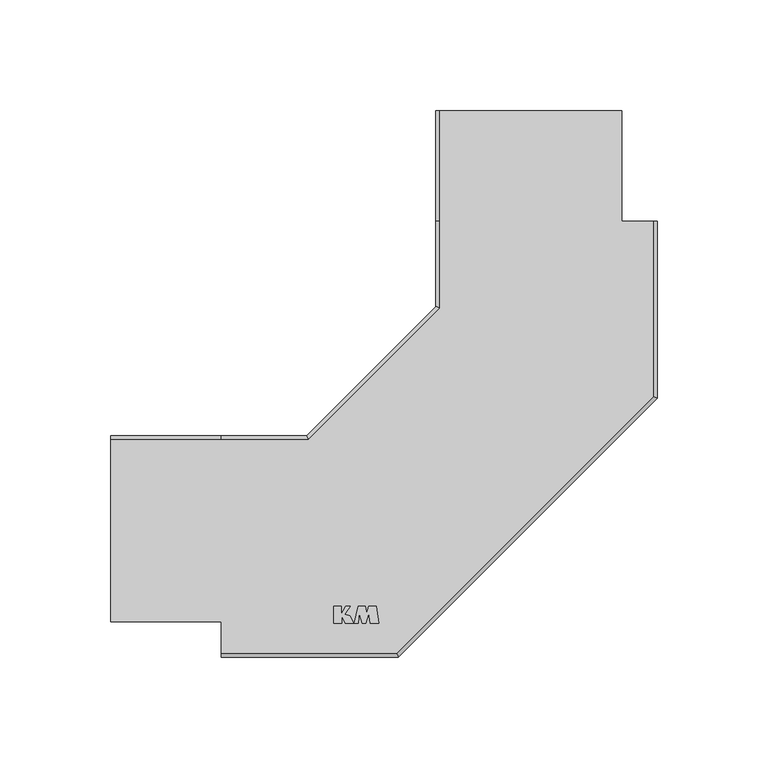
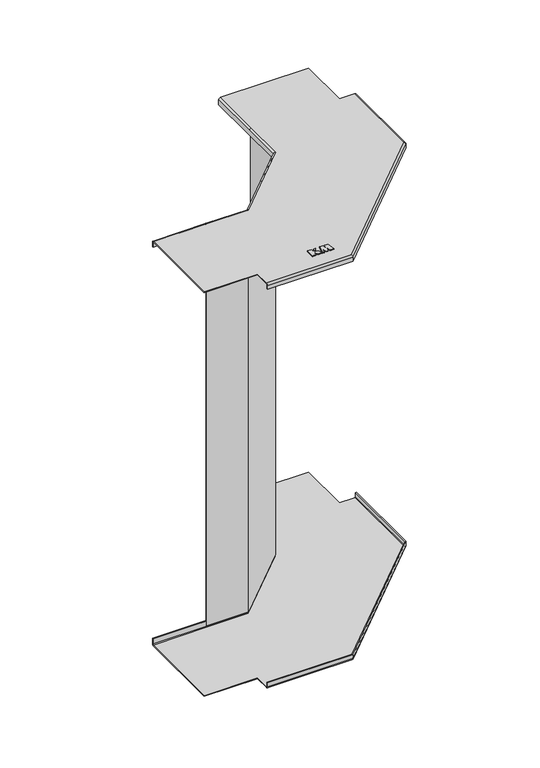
"""IFC4 building model written with IfcOpenShell, lengths in millimetres: cable carrier fitting geometry, КМ Профиль Угол вертикальный внешний VL90 : Угол вертикальный внешний NL90."""

from ifc_helpers import new_model, si_unit, frame, origin, place, context, project, spatial, polyline, circle_curve, ellipse_curve, outline, extrude, source, transform, mapped, element, save
from ifc_brep_helpers import plane_surface, cylinder_surface, revolved_surface, advanced_brep


def cable_carrier_fitting_4f7fa4ee(model_context):
    return source(origin(), model_context, "Body", "SolidModel", [
        extrude(outline(polyline([(-96.2388781, -26.986157), (-92.7316192, -26.986157), (-92.7316192, -30.564509), (-90.8289757, -26.986157), (-88.703011, -26.986157), (-91.1694955, -30.5086619), (-88.9277444, -31.194034), (-87.0604353, -34.737421), (-90.9588467, -34.737421), (-92.6630512, -31.5720802), (-92.6630512, -34.737421), (-96.2388781, -34.737421), (-96.2388781, -26.986157)])), frame((0.0, 0.0, 200.0), z_axis=(0.0, 0.0, 1.0), x_axis=(1.0, 0.0, 0.0)), (0.0, 0.0, 1.0), 0.8),
        extrude(outline(polyline([(-84.9962759, -34.737421), (-86.8943395, -34.737421), (-85.0740589, -26.9647569), (-82.0433304, -26.9647569), (-81.2768297, -30.0390232), (-80.2555223, -26.9623682), (-77.0615674, -26.9623682), (-75.8700699, -34.7429915), (-79.7725105, -34.7429915), (-80.2500032, -30.0541919), (-81.7300717, -34.7434681), (-83.2045824, -34.7434681), (-84.6126012, -30.0696135), (-84.9962759, -34.737421)])), frame((0.0, 0.0, 200.0), z_axis=(0.0, 0.0, 1.0), x_axis=(1.0, 0.0, 0.0)), (0.0, 0.0, 1.0), 0.8),
        advanced_brep(
        [(-197.0, 48.2, 200.0), (-197.0, 50.0, 198.2), (-197.0, 50.0, 193.5), (-197.0, 49.2, 193.5), (-197.0, 49.2, 198.4), (-197.0, 48.4, 199.2), (-197.0, -34.0, 199.2), (-197.0, -34.0, 200.0), (-147.0, -48.2, 200.0), (-67.7455844, -48.2, 200.0), (48.2, 67.7455844, 200.0), (48.2, 147.0, 200.0), (34.0, 147.0, 200.0), (34.0, 197.0, 200.0), (-48.2, 197.0, 200.0), (-48.2, 147.0, 200.0), (-48.2, 107.6757718, 200.0), (-107.6757718, 48.2, 200.0), (-147.0, 48.2, 200.0), (-147.0, -34.0, 200.0), (-147.0, 50.0, 198.2), (-108.4213562, 50.0, 198.2), (-108.4213562, 50.0, 193.5), (-67.3313708, -49.2, 194.5), (49.2, 67.3313708, 194.5), (49.2, 147.0, 194.5), (50.0, 147.0, 194.5), (50.0, 67.0, 194.5), (-67.0, -50.0, 194.5), (-147.0, -50.0, 194.5), (-147.0, -49.2, 194.5), (-67.0, -50.0, 198.2), (-147.0, -50.0, 198.2), (-50.0, 108.4213562, 198.2), (-50.0, 108.4213562, 193.5), (50.0, 67.0, 198.2), (-50.0, 147.0, 198.2), (-50.0, 197.0, 198.2), (-50.0, 197.0, 193.5), (50.0, 147.0, 198.2), (34.0, 197.0, 199.2), (-48.4, 197.0, 199.2), (-49.2, 197.0, 198.4), (-49.2, 197.0, 193.5), (-49.2, 108.0899854, 193.5), (-108.0899854, 49.2, 193.5), (-108.0899854, 49.2, 198.4), (-147.0, 49.2, 198.4), (-147.0, 48.4, 199.2), (-107.7586145, 48.4, 199.2), (-48.4, 107.7586145, 199.2), (-48.4, 147.0, 199.2), (34.0, 147.0, 199.2), (48.4, 147.0, 199.2), (48.4, 67.6627417, 199.2), (-67.6627417, -48.4, 199.2), (-147.0, -48.4, 199.2), (-147.0, -34.0, 199.2), (-147.0, -49.2, 198.4), (-67.3313708, -49.2, 198.4), (-49.2, 108.0899854, 198.4), (49.2, 67.3313708, 198.4), (-49.2, 147.0, 198.4), (49.2, 147.0, 198.4)],
        [
            (0, 1, circle_curve(frame((-197.0, 48.2, 198.2), z_axis=(-1.0, 0.0, 0.0), x_axis=(0.0, 1.0, 0.0)), 1.8)),
            (1, 2),
            (2, 3),
            (3, 4),
            (4, 5, circle_curve(frame((-197.0, 48.4, 198.4), z_axis=(1.0, 0.0, 0.0), x_axis=(0.0, 1.0, 0.0)), 0.8)),
            (5, 6),
            (6, 7),
            (7, 0),
            (8, 9),
            (9, 10),
            (10, 11),
            (11, 12),
            (12, 13),
            (13, 14),
            (14, 15),
            (15, 16),
            (16, 17),
            (17, 18),
            (18, 0),
            (7, 19),
            (19, 8),
            (1, 20),
            (20, 21),
            (21, 22),
            (22, 2),
            (23, 24),
            (24, 25),
            (25, 26),
            (26, 27),
            (27, 28),
            (28, 29),
            (29, 30),
            (30, 23),
            (28, 31),
            (31, 32),
            (32, 29),
            (21, 33),
            (33, 34),
            (34, 22),
            (27, 35),
            (35, 31),
            (33, 36),
            (36, 37),
            (37, 38),
            (38, 34),
            (26, 39),
            (39, 35),
            (37, 14, circle_curve(frame((-48.2, 197.0, 198.2), z_axis=(0.0, 1.0, 0.0), x_axis=(-1.0, 0.0, 0.0)), 1.8)),
            (13, 40),
            (40, 41),
            (41, 42, circle_curve(frame((-48.4, 197.0, 198.4), z_axis=(0.0, -1.0, 0.0), x_axis=(-1.0, 0.0, 0.0)), 0.8)),
            (42, 43),
            (43, 38),
            (43, 44),
            (44, 45),
            (45, 3),
            (45, 46),
            (46, 47),
            (47, 4),
            (5, 48),
            (48, 49),
            (49, 50),
            (50, 51),
            (51, 41),
            (40, 52),
            (52, 53),
            (53, 54),
            (54, 55),
            (55, 56),
            (56, 57),
            (57, 6),
            (58, 59),
            (59, 23),
            (30, 58),
            (44, 60),
            (60, 46),
            (59, 61),
            (61, 24),
            (42, 62),
            (62, 60),
            (61, 63),
            (63, 25),
            (17, 21, ellipse_curve(frame((-107.6757718, 48.2, 198.2), z_axis=(-0.9238795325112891, -0.3826834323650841, 0.0), x_axis=(-0.3826834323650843, 0.9238795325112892, 0.0)), 1.948306, 1.8)),
            (20, 18, circle_curve(frame((-147.0, 48.2, 198.2), z_axis=(1.0, 0.0, 0.0), x_axis=(0.0, 1.0, 0.0)), 1.8)),
            (46, 49, ellipse_curve(frame((-107.7586145, 48.4, 198.4), z_axis=(0.9238795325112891, 0.3826834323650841, 0.0), x_axis=(0.3826834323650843, -0.9238795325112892, 0.0)), 0.8659138, 0.8)),
            (48, 47, circle_curve(frame((-147.0, 48.4, 198.4), z_axis=(-1.0, 0.0, 0.0), x_axis=(0.0, 1.0, 0.0)), 0.8)),
            (55, 59, ellipse_curve(frame((-67.6627417, -48.4, 198.4), z_axis=(0.9238795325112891, 0.3826834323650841, 0.0), x_axis=(0.3826834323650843, -0.9238795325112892, 0.0)), 0.8659138, 0.8)),
            (58, 56, circle_curve(frame((-147.0, -48.4, 198.4), z_axis=(-1.0, 0.0, 0.0), x_axis=(0.0, 1.0, 0.0)), 0.8)),
            (8, 32, circle_curve(frame((-147.0, -48.2, 198.2), z_axis=(1.0, 0.0, 0.0), x_axis=(0.0, 1.0, 0.0)), 1.8)),
            (31, 9, ellipse_curve(frame((-67.7455844, -48.2, 198.2), z_axis=(-0.9238795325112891, -0.3826834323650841, 0.0), x_axis=(-0.3826834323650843, 0.9238795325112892, 0.0)), 1.948306, 1.8)),
            (16, 33, ellipse_curve(frame((-48.2, 107.6757718, 198.2), z_axis=(-0.38268343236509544, -0.9238795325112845, 0.0), x_axis=(-0.9238795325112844, 0.38268343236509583, 0.0)), 1.948306, 1.8)),
            (60, 50, ellipse_curve(frame((-48.4, 107.7586145, 198.4), z_axis=(0.38268343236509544, 0.9238795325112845, 0.0), x_axis=(0.9238795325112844, -0.38268343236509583, 0.0)), 0.8659138, 0.8)),
            (54, 61, ellipse_curve(frame((48.4, 67.6627417, 198.4), z_axis=(0.38268343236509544, 0.9238795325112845, 0.0), x_axis=(0.9238795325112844, -0.38268343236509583, 0.0)), 0.8659138, 0.8)),
            (35, 10, ellipse_curve(frame((48.2, 67.7455844, 198.2), z_axis=(-0.38268343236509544, -0.9238795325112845, 0.0), x_axis=(-0.9238795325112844, 0.38268343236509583, 0.0)), 1.948306, 1.8)),
            (15, 36, circle_curve(frame((-48.2, 147.0, 198.2), z_axis=(0.0, -1.0, 0.0), x_axis=(-1.0, 0.0, 0.0)), 1.8)),
            (62, 51, circle_curve(frame((-48.4, 147.0, 198.4), z_axis=(0.0, 1.0, 0.0), x_axis=(-1.0, 0.0, 0.0)), 0.8)),
            (53, 63, circle_curve(frame((48.4, 147.0, 198.4), z_axis=(0.0, 1.0, 0.0), x_axis=(-1.0, 0.0, 0.0)), 0.8)),
            (39, 11, circle_curve(frame((48.2, 147.0, 198.2), z_axis=(0.0, -1.0, 0.0), x_axis=(-1.0, 0.0, 0.0)), 1.8)),
            (19, 57),
            (52, 12),
        ],
        [
            plane_surface(frame((-197.0, 0.0, 0.0), z_axis=(-1.0, 0.0, 0.0), x_axis=(0.0, 0.0, 1.0))),
            plane_surface(frame((-197.0, -48.2, 200.0), z_axis=(0.0, 0.0, 1.0), x_axis=(1.0, 0.0, 0.0))),
            plane_surface(frame((-197.0, 50.0, 198.2), z_axis=(0.0, 1.0, 0.0), x_axis=(1.0, 0.0, 0.0))),
            plane_surface(frame((-197.0, -49.2, 194.5), z_axis=(0.0, 0.0, -1.0), x_axis=(1.0, 0.0, 0.0))),
            plane_surface(frame((-197.0, -50.0, 194.5), z_axis=(0.0, -1.0, 0.0), x_axis=(1.0, 0.0, 0.0))),
            plane_surface(frame((-108.4213562, 50.0, 198.2), z_axis=(-0.7071067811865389, 0.7071067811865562, 0.0), x_axis=(0.7071067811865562, 0.7071067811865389, 0.0))),
            plane_surface(frame((-67.0, -50.0, 194.5), z_axis=(0.7071067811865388, -0.7071067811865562, 0.0), x_axis=(0.7071067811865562, 0.7071067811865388, 0.0))),
            plane_surface(frame((-50.0, 108.4213562, 198.2), z_axis=(-1.0, 0.0, 0.0), x_axis=(0.0, 1.0, 0.0))),
            plane_surface(frame((50.0, 67.0, 194.5), z_axis=(1.0, 0.0, 0.0), x_axis=(0.0, 1.0, 0.0))),
            plane_surface(frame((0.0, 197.0, 0.0), z_axis=(0.0, 1.0, 0.0), x_axis=(0.0, 0.0, 1.0))),
            plane_surface(frame((-197.0, 50.0, 193.5), z_axis=(0.0, 0.0, -1.0), x_axis=(1.0, 0.0, 0.0))),
            plane_surface(frame((-197.0, 49.2, 193.5), z_axis=(0.0, -1.0, 0.0), x_axis=(1.0, 0.0, 0.0))),
            plane_surface(frame((-197.0, 48.4, 199.2), z_axis=(0.0, 0.0, -1.0), x_axis=(1.0, 0.0, 0.0))),
            plane_surface(frame((-197.0, -49.2, 198.4), z_axis=(0.0, 1.0, 0.0), x_axis=(1.0, 0.0, 0.0))),
            plane_surface(frame((-108.0899854, 49.2, 193.5), z_axis=(0.707106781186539, -0.707106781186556, 0.0), x_axis=(0.707106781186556, 0.707106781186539, 0.0))),
            plane_surface(frame((-67.3313708, -49.2, 198.4), z_axis=(-0.7071067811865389, 0.7071067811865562, 0.0), x_axis=(0.7071067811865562, 0.7071067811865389, 0.0))),
            plane_surface(frame((-49.2, 108.0899854, 193.5), z_axis=(1.0, 0.0, 0.0), x_axis=(0.0, 1.0, 0.0))),
            plane_surface(frame((49.2, 67.3313708, 198.4), z_axis=(-1.0, 0.0, 0.0), x_axis=(0.0, 1.0, 0.0))),
            cylinder_surface(frame((-147.0, 48.2, 198.2), z_axis=(-1.0, 0.0, 0.0), x_axis=(0.0, 1.0, 0.0)), 1.8),
            revolved_surface(polyline([(-107.4272436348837, 49.199999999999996, 198.4), (-147.0, 49.199999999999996, 198.4)]), (-147.0, 48.4, 198.4), (1.0, 0.0, 0.0)),
            revolved_surface(polyline([(-67.3313708, -47.6, 198.4), (-147.0, -47.6, 198.4)]), (-147.0, -48.4, 198.4), (1.0, 0.0, 0.0)),
            cylinder_surface(frame((-147.0, -48.2, 198.2), z_axis=(-1.0, 0.0, 0.0), x_axis=(0.0, 1.0, 0.0)), 1.8),
            cylinder_surface(frame((-121.793225, 34.0825469, 198.2), z_axis=(-0.7071067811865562, -0.7071067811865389, 0.0), x_axis=(-0.7071067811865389, 0.7071067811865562, 0.0)), 1.8),
            revolved_surface(polyline([(-48.73137083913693, 108.55861451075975, 198.4), (-108.55861451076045, 48.731370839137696, 198.4)]), (-121.9346463, 34.2239682, 198.4), (0.7071067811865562, 0.7071067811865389, 0.0)),
            revolved_surface(polyline([(48.06862916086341, 68.46274171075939, 198.4), (-68.46274171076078, -48.06862916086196, 198.4)]), (-53.4867099, -34.2239682, 198.4), (0.7071067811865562, 0.7071067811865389, 0.0)),
            cylinder_surface(frame((-53.6281313, -34.0825469, 198.2), z_axis=(-0.7071067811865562, -0.7071067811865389, 0.0), x_axis=(-0.7071067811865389, 0.7071067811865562, 0.0)), 1.8),
            cylinder_surface(frame((-48.2, 87.7106781, 198.2), z_axis=(0.0, -1.0, 0.0), x_axis=(-1.0, 0.0, 0.0)), 1.8),
            revolved_surface(polyline([(-49.199999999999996, 147.0, 198.4), (-49.199999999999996, 107.4272436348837, 198.4)]), (-48.4, 87.7106781, 198.4), (0.0, 1.0, 0.0)),
            revolved_surface(polyline([(47.6, 147.0, 198.4), (47.6, 67.3313708, 198.4)]), (48.4, 87.7106781, 198.4), (0.0, 1.0, 0.0)),
            cylinder_surface(frame((48.2, 87.7106781, 198.2), z_axis=(0.0, -1.0, 0.0), x_axis=(-1.0, 0.0, 0.0)), 1.8),
            plane_surface(frame((-147.0, -50.0, 200.0), z_axis=(-1.0, 0.0, 0.0), x_axis=(0.0, 0.0, -1.0))),
            plane_surface(frame((34.0, 147.0, 200.0), z_axis=(0.0, 1.0, 0.0), x_axis=(0.0, 0.0, -1.0))),
            cylinder_surface(frame((-197.0, 48.2, 198.2), z_axis=(-1.0, 0.0, 0.0), x_axis=(0.0, 1.0, 0.0)), 1.8),
            revolved_surface(polyline([(-147.0, 49.199999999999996, 198.4), (-197.0, 49.199999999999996, 198.4)]), (-197.0, 48.4, 198.4), (1.0, 0.0, 0.0)),
            cylinder_surface(frame((-48.2, 147.0, 198.2), z_axis=(0.0, -1.0, 0.0), x_axis=(-1.0, 0.0, 0.0)), 1.8),
            revolved_surface(polyline([(-49.199999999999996, 197.0, 198.4), (-49.199999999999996, 147.0, 198.4)]), (-48.4, 147.0, 198.4), (0.0, 1.0, 0.0)),
            plane_surface(frame((-147.0, -34.0, 200.0), z_axis=(0.0, -1.0, 0.0), x_axis=(0.0, 0.0, -1.0))),
            plane_surface(frame((34.0, 197.0, 200.0), z_axis=(1.0, 0.0, 0.0), x_axis=(0.0, 0.0, -1.0))),
        ],
        [
            (0, [[1, 2, 3, 4, 5, 6, 7, 8]]),
            (1, [[9, 10, 11, 12, 13, 14, 15, 16, 17, 18, 19, -8, 20, 21]]),
            (2, [[-2, 22, 23, 24, 25]]),
            (3, [[26, 27, 28, 29, 30, 31, 32, 33]]),
            (4, [[34, 35, 36, -31]]),
            (5, [[-24, 37, 38, 39]]),
            (6, [[-30, 40, 41, -34]]),
            (7, [[-38, 42, 43, 44, 45]]),
            (8, [[-40, -29, 46, 47]]),
            (9, [[-44, 48, -14, 49, 50, 51, 52, 53]]),
            (10, [[-3, -25, -39, -45, -53, 54, 55, 56]]),
            (11, [[-4, -56, 57, 58, 59]]),
            (12, [[60, 61, 62, 63, 64, -50, 65, 66, 67, 68, 69, 70, 71, -6]]),
            (13, [[72, 73, -33, 74]]),
            (14, [[-55, 75, 76, -57]]),
            (15, [[-26, -73, 77, 78]]),
            (16, [[-52, 79, 80, -75, -54]]),
            (17, [[-78, 81, 82, -27]]),
            (18, [[-18, 83, -23, 84]]),
            (19, [[-58, 85, -61, 86]]),
            (20, [[-69, 87, -72, 88]]),
            (21, [[-9, 89, -35, 90]]),
            (22, [[-17, 91, -37, -83]]),
            (23, [[-62, -85, -76, 92]]),
            (24, [[-68, 93, -77, -87]]),
            (25, [[-10, -90, -41, 94]]),
            (26, [[-16, 95, -42, -91]]),
            (27, [[-63, -92, -80, 96]]),
            (28, [[-67, 97, -81, -93]]),
            (29, [[-11, -94, -47, 98]]),
            (30, [[99, -70, -88, -74, -32, -36, -89, -21]]),
            (31, [[100, -12, -98, -46, -28, -82, -97, -66]]),
            (32, [[-1, -19, -84, -22]]),
            (33, [[-5, -59, -86, -60]]),
            (34, [[-15, -48, -43, -95]]),
            (35, [[-51, -64, -96, -79]]),
            (36, [[-99, -20, -7, -71]]),
            (37, [[-100, -65, -49, -13]]),
        ],
    ),
        advanced_brep(
        [(-197.0, 49.2, -193.5), (-197.0, 50.0, -193.5), (-197.0, 50.0, -198.2), (-197.0, 48.2, -200.0), (-197.0, -34.0, -200.0), (-197.0, -34.0, -199.2), (-197.0, 48.4, -199.2), (-197.0, 49.2, -198.4), (-108.0899854, 49.2, -193.5), (-49.2, 108.0899854, -193.5), (-49.2, 197.0, -193.5), (-50.0, 197.0, -193.5), (-50.0, 108.4213562, -193.5), (-108.4213562, 50.0, -193.5), (-108.4213562, 50.0, -198.2), (-147.0, 50.0, -198.2), (-147.0, 48.2, -200.0), (-107.6757718, 48.2, -200.0), (-48.2, 107.6757718, -200.0), (-48.2, 147.0, -200.0), (-48.2, 197.0, -200.0), (34.0, 197.0, -200.0), (34.0, 147.0, -200.0), (48.2, 147.0, -200.0), (48.2, 67.7455844, -200.0), (-67.7455844, -48.2, -200.0), (-147.0, -48.2, -200.0), (-147.0, -34.0, -200.0), (-147.0, -50.0, -198.2), (-67.0, -50.0, -198.2), (-67.0, -50.0, -194.5), (-147.0, -50.0, -194.5), (-50.0, 108.4213562, -198.2), (50.0, 67.0, -198.2), (50.0, 67.0, -194.5), (-50.0, 197.0, -198.2), (-50.0, 147.0, -198.2), (50.0, 147.0, -198.2), (50.0, 147.0, -194.5), (-49.2, 197.0, -198.4), (-48.4, 197.0, -199.2), (34.0, 197.0, -199.2), (49.2, 147.0, -194.5), (49.2, 67.3313708, -194.5), (-67.3313708, -49.2, -194.5), (-147.0, -49.2, -194.5), (-67.3313708, -49.2, -198.4), (-147.0, -49.2, -198.4), (-147.0, -48.4, -199.2), (-67.6627417, -48.4, -199.2), (48.4, 67.6627417, -199.2), (48.4, 147.0, -199.2), (34.0, 147.0, -199.2), (-48.4, 147.0, -199.2), (-48.4, 107.7586145, -199.2), (-107.7586145, 48.4, -199.2), (-147.0, 48.4, -199.2), (-147.0, -34.0, -199.2), (-147.0, 49.2, -198.4), (-108.0899854, 49.2, -198.4), (49.2, 67.3313708, -198.4), (-49.2, 108.0899854, -198.4), (49.2, 147.0, -198.4), (-49.2, 147.0, -198.4)],
        [
            (0, 1),
            (1, 2),
            (2, 3, circle_curve(frame((-197.0, 48.2, -198.2), z_axis=(-1.0, 0.0, 0.0), x_axis=(0.0, 1.0, 0.0)), 1.8)),
            (3, 4),
            (4, 5),
            (5, 6),
            (6, 7, circle_curve(frame((-197.0, 48.4, -198.4), z_axis=(1.0, 0.0, 0.0), x_axis=(0.0, 1.0, 0.0)), 0.8)),
            (7, 0),
            (0, 8),
            (8, 9),
            (9, 10),
            (10, 11),
            (11, 12),
            (12, 13),
            (13, 1),
            (13, 14),
            (14, 15),
            (15, 2),
            (3, 16),
            (16, 17),
            (17, 18),
            (18, 19),
            (19, 20),
            (20, 21),
            (21, 22),
            (22, 23),
            (23, 24),
            (24, 25),
            (25, 26),
            (26, 27),
            (27, 4),
            (28, 29),
            (29, 30),
            (30, 31),
            (31, 28),
            (12, 32),
            (32, 14),
            (29, 33),
            (33, 34),
            (34, 30),
            (11, 35),
            (35, 36),
            (36, 32),
            (33, 37),
            (37, 38),
            (38, 34),
            (10, 39),
            (39, 40, circle_curve(frame((-48.4, 197.0, -198.4), z_axis=(0.0, -1.0, 0.0), x_axis=(-1.0, 0.0, 0.0)), 0.8)),
            (40, 41),
            (41, 21),
            (20, 35, circle_curve(frame((-48.2, 197.0, -198.2), z_axis=(0.0, 1.0, 0.0), x_axis=(-1.0, 0.0, 0.0)), 1.8)),
            (38, 42),
            (42, 43),
            (43, 44),
            (44, 45),
            (45, 31),
            (44, 46),
            (46, 47),
            (47, 45),
            (48, 49),
            (49, 50),
            (50, 51),
            (51, 52),
            (52, 41),
            (40, 53),
            (53, 54),
            (54, 55),
            (55, 56),
            (56, 6),
            (5, 57),
            (57, 48),
            (7, 58),
            (58, 59),
            (59, 8),
            (43, 60),
            (60, 46),
            (59, 61),
            (61, 9),
            (42, 62),
            (62, 60),
            (61, 63),
            (63, 39),
            (14, 17, ellipse_curve(frame((-107.6757718, 48.2, -198.2), z_axis=(-0.9238795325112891, -0.3826834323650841, 0.0), x_axis=(-0.3826834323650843, 0.9238795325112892, 0.0)), 1.948306, 1.8)),
            (16, 15, circle_curve(frame((-147.0, 48.2, -198.2), z_axis=(1.0, 0.0, 0.0), x_axis=(0.0, 1.0, 0.0)), 1.8)),
            (25, 29, ellipse_curve(frame((-67.7455844, -48.2, -198.2), z_axis=(-0.9238795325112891, -0.3826834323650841, 0.0), x_axis=(-0.3826834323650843, 0.9238795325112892, 0.0)), 1.948306, 1.8)),
            (28, 26, circle_curve(frame((-147.0, -48.2, -198.2), z_axis=(1.0, 0.0, 0.0), x_axis=(0.0, 1.0, 0.0)), 1.8)),
            (46, 49, ellipse_curve(frame((-67.6627417, -48.4, -198.4), z_axis=(0.9238795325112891, 0.3826834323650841, 0.0), x_axis=(0.3826834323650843, -0.9238795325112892, 0.0)), 0.8659138, 0.8)),
            (48, 47, circle_curve(frame((-147.0, -48.4, -198.4), z_axis=(-1.0, 0.0, 0.0), x_axis=(0.0, 1.0, 0.0)), 0.8)),
            (55, 59, ellipse_curve(frame((-107.7586145, 48.4, -198.4), z_axis=(0.9238795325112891, 0.3826834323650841, 0.0), x_axis=(0.3826834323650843, -0.9238795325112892, 0.0)), 0.8659138, 0.8)),
            (58, 56, circle_curve(frame((-147.0, 48.4, -198.4), z_axis=(-1.0, 0.0, 0.0), x_axis=(0.0, 1.0, 0.0)), 0.8)),
            (32, 18, ellipse_curve(frame((-48.2, 107.6757718, -198.2), z_axis=(-0.38268343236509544, -0.9238795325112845, 0.0), x_axis=(-0.9238795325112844, 0.38268343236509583, 0.0)), 1.948306, 1.8)),
            (24, 33, ellipse_curve(frame((48.2, 67.7455844, -198.2), z_axis=(-0.38268343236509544, -0.9238795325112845, 0.0), x_axis=(-0.9238795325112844, 0.38268343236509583, 0.0)), 1.948306, 1.8)),
            (60, 50, ellipse_curve(frame((48.4, 67.6627417, -198.4), z_axis=(0.38268343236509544, 0.9238795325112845, 0.0), x_axis=(0.9238795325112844, -0.38268343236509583, 0.0)), 0.8659138, 0.8)),
            (54, 61, ellipse_curve(frame((-48.4, 107.7586145, -198.4), z_axis=(0.38268343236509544, 0.9238795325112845, 0.0), x_axis=(0.9238795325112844, -0.38268343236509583, 0.0)), 0.8659138, 0.8)),
            (36, 19, circle_curve(frame((-48.2, 147.0, -198.2), z_axis=(0.0, -1.0, 0.0), x_axis=(-1.0, 0.0, 0.0)), 1.8)),
            (23, 37, circle_curve(frame((48.2, 147.0, -198.2), z_axis=(0.0, -1.0, 0.0), x_axis=(-1.0, 0.0, 0.0)), 1.8)),
            (62, 51, circle_curve(frame((48.4, 147.0, -198.4), z_axis=(0.0, 1.0, 0.0), x_axis=(-1.0, 0.0, 0.0)), 0.8)),
            (53, 63, circle_curve(frame((-48.4, 147.0, -198.4), z_axis=(0.0, 1.0, 0.0), x_axis=(-1.0, 0.0, 0.0)), 0.8)),
            (57, 27),
            (22, 52),
        ],
        [
            plane_surface(frame((-197.0, 0.0, 0.0), z_axis=(-1.0, 0.0, 0.0), x_axis=(0.0, 0.0, 1.0))),
            plane_surface(frame((-197.0, 49.2, -193.5), z_axis=(0.0, 0.0, 1.0), x_axis=(1.0, 0.0, 0.0))),
            plane_surface(frame((-197.0, 50.0, -193.5), z_axis=(0.0, 1.0, 0.0), x_axis=(1.0, 0.0, 0.0))),
            plane_surface(frame((-197.0, 48.2, -200.0), z_axis=(0.0, 0.0, -1.0), x_axis=(1.0, 0.0, 0.0))),
            plane_surface(frame((-197.0, -50.0, -198.2), z_axis=(0.0, -1.0, 0.0), x_axis=(1.0, 0.0, 0.0))),
            plane_surface(frame((-108.4213562, 50.0, -193.5), z_axis=(-0.7071067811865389, 0.7071067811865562, 0.0), x_axis=(0.7071067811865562, 0.7071067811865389, 0.0))),
            plane_surface(frame((-67.0, -50.0, -198.2), z_axis=(0.7071067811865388, -0.7071067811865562, 0.0), x_axis=(0.7071067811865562, 0.7071067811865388, 0.0))),
            plane_surface(frame((-50.0, 108.4213562, -193.5), z_axis=(-1.0, 0.0, 0.0), x_axis=(0.0, 1.0, 0.0))),
            plane_surface(frame((50.0, 67.0, -198.2), z_axis=(1.0, 0.0, 0.0), x_axis=(0.0, 1.0, 0.0))),
            plane_surface(frame((0.0, 197.0, 0.0), z_axis=(0.0, 1.0, 0.0), x_axis=(0.0, 0.0, 1.0))),
            plane_surface(frame((-197.0, -50.0, -194.5), z_axis=(0.0, 0.0, 1.0), x_axis=(1.0, 0.0, 0.0))),
            plane_surface(frame((-197.0, -49.2, -194.5), z_axis=(0.0, 1.0, 0.0), x_axis=(1.0, 0.0, 0.0))),
            plane_surface(frame((-197.0, -48.4, -199.2), z_axis=(0.0, 0.0, 1.0), x_axis=(1.0, 0.0, 0.0))),
            plane_surface(frame((-197.0, 49.2, -198.4), z_axis=(0.0, -1.0, 0.0), x_axis=(1.0, 0.0, 0.0))),
            plane_surface(frame((-67.3313708, -49.2, -194.5), z_axis=(-0.7071067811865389, 0.7071067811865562, 0.0), x_axis=(0.7071067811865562, 0.7071067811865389, 0.0))),
            plane_surface(frame((-108.0899854, 49.2, -198.4), z_axis=(0.707106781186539, -0.707106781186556, 0.0), x_axis=(0.707106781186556, 0.707106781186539, 0.0))),
            plane_surface(frame((49.2, 67.3313708, -194.5), z_axis=(-1.0, 0.0, 0.0), x_axis=(0.0, 1.0, 0.0))),
            plane_surface(frame((-49.2, 108.0899854, -198.4), z_axis=(1.0, 0.0, 0.0), x_axis=(0.0, 1.0, 0.0))),
            cylinder_surface(frame((-147.0, 48.2, -198.2), z_axis=(-1.0, 0.0, 0.0), x_axis=(0.0, 1.0, 0.0)), 1.8),
            cylinder_surface(frame((-147.0, -48.2, -198.2), z_axis=(-1.0, 0.0, 0.0), x_axis=(0.0, 1.0, 0.0)), 1.8),
            revolved_surface(polyline([(-67.3313708, -47.6, -198.4), (-147.0, -47.6, -198.4)]), (-147.0, -48.4, -198.4), (1.0, 0.0, 0.0)),
            revolved_surface(polyline([(-107.4272436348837, 49.199999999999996, -198.4), (-147.0, 49.199999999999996, -198.4)]), (-147.0, 48.4, -198.4), (1.0, 0.0, 0.0)),
            cylinder_surface(frame((-121.793225, 34.0825469, -198.2), z_axis=(-0.7071067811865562, -0.7071067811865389, 0.0), x_axis=(-0.7071067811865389, 0.7071067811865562, 0.0)), 1.8),
            cylinder_surface(frame((-53.6281313, -34.0825469, -198.2), z_axis=(-0.7071067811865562, -0.7071067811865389, 0.0), x_axis=(-0.7071067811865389, 0.7071067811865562, 0.0)), 1.8),
            revolved_surface(polyline([(48.06862916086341, 68.46274171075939, -198.4), (-68.46274171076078, -48.06862916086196, -198.4)]), (-53.4867099, -34.2239682, -198.4), (0.7071067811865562, 0.7071067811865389, 0.0)),
            revolved_surface(polyline([(-48.73137083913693, 108.55861451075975, -198.4), (-108.55861451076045, 48.731370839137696, -198.4)]), (-121.9346463, 34.2239682, -198.4), (0.7071067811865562, 0.7071067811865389, 0.0)),
            cylinder_surface(frame((-48.2, 87.7106781, -198.2), z_axis=(0.0, -1.0, 0.0), x_axis=(-1.0, 0.0, 0.0)), 1.8),
            cylinder_surface(frame((48.2, 87.7106781, -198.2), z_axis=(0.0, -1.0, 0.0), x_axis=(-1.0, 0.0, 0.0)), 1.8),
            revolved_surface(polyline([(47.6, 147.0, -198.4), (47.6, 67.3313708, -198.4)]), (48.4, 87.7106781, -198.4), (0.0, 1.0, 0.0)),
            revolved_surface(polyline([(-49.199999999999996, 147.0, -198.4), (-49.199999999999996, 107.4272436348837, -198.4)]), (-48.4, 87.7106781, -198.4), (0.0, 1.0, 0.0)),
            plane_surface(frame((-147.0, -50.0, 200.0), z_axis=(-1.0, 0.0, 0.0), x_axis=(0.0, 0.0, -1.0))),
            plane_surface(frame((34.0, 147.0, 200.0), z_axis=(0.0, 1.0, 0.0), x_axis=(0.0, 0.0, -1.0))),
            cylinder_surface(frame((-197.0, 48.2, -198.2), z_axis=(-1.0, 0.0, 0.0), x_axis=(0.0, 1.0, 0.0)), 1.8),
            revolved_surface(polyline([(-147.0, 49.199999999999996, -198.4), (-197.0, 49.199999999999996, -198.4)]), (-197.0, 48.4, -198.4), (1.0, 0.0, 0.0)),
            cylinder_surface(frame((-48.2, 147.0, -198.2), z_axis=(0.0, -1.0, 0.0), x_axis=(-1.0, 0.0, 0.0)), 1.8),
            revolved_surface(polyline([(-49.199999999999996, 197.0, -198.4), (-49.199999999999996, 147.0, -198.4)]), (-48.4, 147.0, -198.4), (0.0, 1.0, 0.0)),
            plane_surface(frame((-147.0, -34.0, 200.0), z_axis=(0.0, -1.0, 0.0), x_axis=(0.0, 0.0, -1.0))),
            plane_surface(frame((34.0, 197.0, 200.0), z_axis=(1.0, 0.0, 0.0), x_axis=(0.0, 0.0, -1.0))),
        ],
        [
            (0, [[1, 2, 3, 4, 5, 6, 7, 8]]),
            (1, [[-1, 9, 10, 11, 12, 13, 14, 15]]),
            (2, [[-2, -15, 16, 17, 18]]),
            (3, [[19, 20, 21, 22, 23, 24, 25, 26, 27, 28, 29, 30, 31, -4]]),
            (4, [[32, 33, 34, 35]]),
            (5, [[-14, 36, 37, -16]]),
            (6, [[-33, 38, 39, 40]]),
            (7, [[-13, 41, 42, 43, -36]]),
            (8, [[-39, 44, 45, 46]]),
            (9, [[-12, 47, 48, 49, 50, -24, 51, -41]]),
            (10, [[-40, -46, 52, 53, 54, 55, 56, -34]]),
            (11, [[57, 58, 59, -55]]),
            (12, [[60, 61, 62, 63, 64, -49, 65, 66, 67, 68, 69, -6, 70, 71]]),
            (13, [[-8, 72, 73, 74, -9]]),
            (14, [[-54, 75, 76, -57]]),
            (15, [[-10, -74, 77, 78]]),
            (16, [[-75, -53, 79, 80]]),
            (17, [[-11, -78, 81, 82, -47]]),
            (18, [[-17, 83, -20, 84]]),
            (19, [[-29, 85, -32, 86]]),
            (20, [[-58, 87, -60, 88]]),
            (21, [[-68, 89, -73, 90]]),
            (22, [[-21, -83, -37, 91]]),
            (23, [[-28, 92, -38, -85]]),
            (24, [[-61, -87, -76, 93]]),
            (25, [[-67, 94, -77, -89]]),
            (26, [[-22, -91, -43, 95]]),
            (27, [[-27, 96, -44, -92]]),
            (28, [[-62, -93, -80, 97]]),
            (29, [[-66, 98, -81, -94]]),
            (30, [[99, -30, -86, -35, -56, -59, -88, -71]]),
            (31, [[100, -63, -97, -79, -52, -45, -96, -26]]),
            (32, [[-3, -18, -84, -19]]),
            (33, [[-7, -69, -90, -72]]),
            (34, [[-23, -95, -42, -51]]),
            (35, [[-48, -82, -98, -65]]),
            (36, [[-99, -70, -5, -31]]),
            (37, [[-100, -25, -50, -64]]),
        ],
    ),
        extrude(outline(polyline([(-147.0, 48.4), (-147.0, 49.2), (-108.0899854, 49.2), (-49.2, 108.0899854), (-49.2, 147.0), (-48.4, 147.0), (-48.4, 107.7586145), (-107.7586145, 48.4), (-147.0, 48.4)])), frame((0.0, 0.0, -197.4), z_axis=(0.0, 0.0, 1.0), x_axis=(1.0, 0.0, 0.0)), (0.0, 0.0, 1.0), 394.8),
    ])


if __name__ == "__main__":
    model = new_model("IFC4")
    model_context = context("Model", 3, world=origin())
    ifc_project = project(units=[si_unit("LENGTHUNIT", "METRE", prefix="MILLI")], contexts=[model_context])
    site = spatial("IfcSite", under=ifc_project)
    building = spatial("IfcBuilding", under=site)
    placement = place(None, origin())
    cable_carrier_fitting_shape = cable_carrier_fitting_4f7fa4ee(model_context)
    element("IfcCableCarrierFitting", 1, ObjectType="КМ Профиль Угол вертикальный внешний VL90 : Угол вертикальный внешний NL90", at=placement, inside=building, context=model_context, shape_type="MappedRepresentation", body=[
        mapped(cable_carrier_fitting_shape, transform((0.0, 0.0, 0.0), x_axis=(1.0, 0.0, 0.0), y_axis=(0.0, 1.0, 0.0), z_axis=(0.0, 0.0, 1.0))),
    ])
    save(model, "model.ifc")
